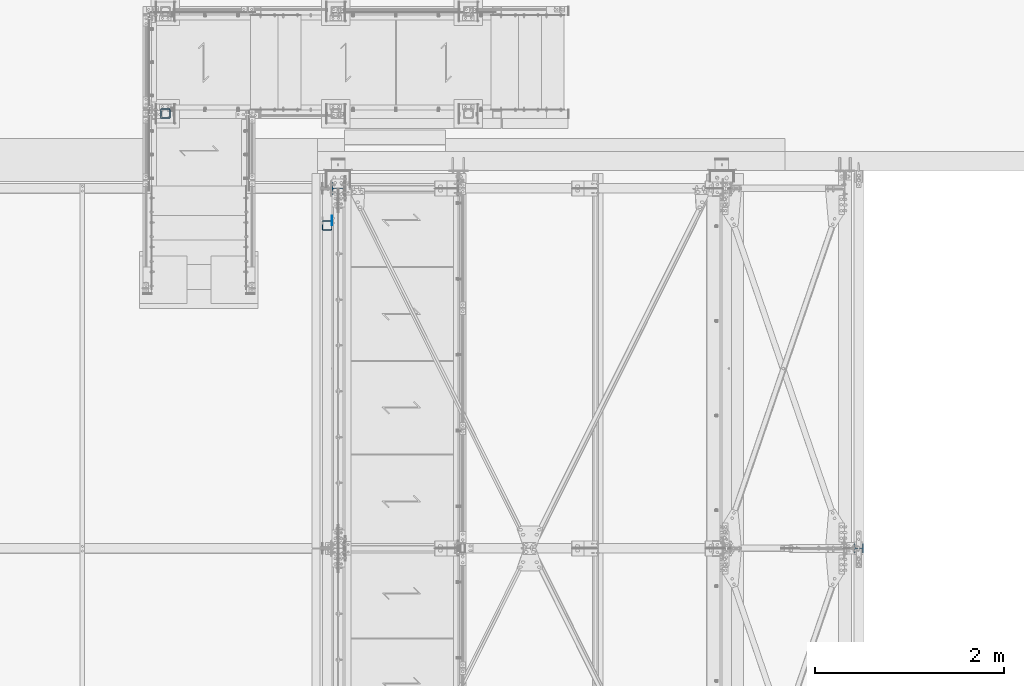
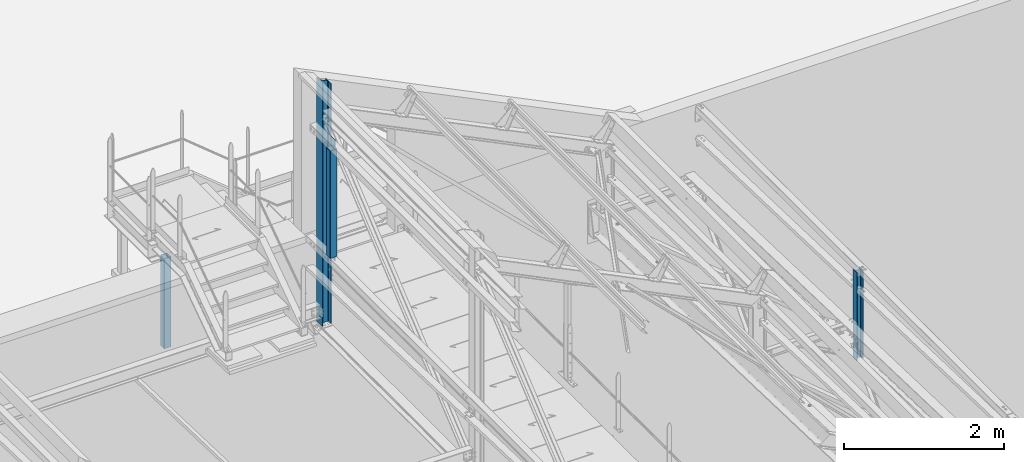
# One storey, part 18 of 362: 5 columns, 4 elements without a shape of their own.
"""IFC2X3 building model written with IfcOpenShell, lengths in millimetres."""

from ifc_helpers import new_model, si_unit, frame, origin_with_axes, origin_2d_with_axis, place, context, subcontext, project, spatial, rectangle, hollow_rectangle, i_section, extrude, clip, halfspace, material, type_object, element, aggregate, save


model = new_model("IFC2X3")

# Units and contexts
model_context = context("Model", 3, precision=1e-05, world=origin_with_axes())
body_context = subcontext(model_context, "Body", "Model", "MODEL_VIEW")
ifc_project = project(units=[si_unit("LENGTHUNIT", "METRE", prefix="MILLI"), si_unit("AREAUNIT", "SQUARE_METRE"), si_unit("VOLUMEUNIT", "CUBIC_METRE"), si_unit("MASSUNIT", "GRAM", prefix="KILO"), si_unit("TIMEUNIT", "SECOND"), si_unit("PLANEANGLEUNIT", "RADIAN"), si_unit("SOLIDANGLEUNIT", "STERADIAN"), si_unit("THERMODYNAMICTEMPERATUREUNIT", "DEGREE_CELSIUS"), si_unit("LUMINOUSINTENSITYUNIT", "LUMEN")], contexts=[model_context])

# Site, building, storey
site_placement = place(None, origin_with_axes())
site = spatial("IfcSite", under=ifc_project, at=site_placement, Name="Undefined", CompositionType="ELEMENT")
building_placement = place(site_placement, origin_with_axes())
building = spatial("IfcBuilding", under=site, at=building_placement, Name="Undefined", CompositionType="ELEMENT")
storey_placement = place(building_placement, origin_with_axes())
storey = spatial("IfcBuildingStorey", under=building, at=storey_placement, Name="Undefined", CompositionType="ELEMENT", Elevation=0.0)

# Assembly, column
assembly_1_placement = place(storey_placement, origin_with_axes())
assembly_1 = element("IfcElementAssembly", 1, at=assembly_1_placement, inside=storey, AssemblyPlace="NOTDEFINED", PredefinedType="NOTDEFINED")
ifc_material_1 = material(Name="Undefined/S235-E24")
column_type_1 = type_object("IfcColumnType", Name="TUBE-C-100*100*5", PredefinedType="NOTDEFINED")
column_1_placement = place(assembly_1_placement, frame((32455.0000000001, 15989.9999136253, 7062.0), z_axis=(0.0, 0.0, 1.0), x_axis=(0.0, 1.0, 0.0)))
column_1 = element("IfcColumn", 2, at=column_1_placement, type_object=column_type_1, material=ifc_material_1, Name="POTELET", ObjectType="TUBE-C-100*100*5", context=body_context, shape_type="SweptSolid", body=[
    extrude(hollow_rectangle(XDim=100.0, YDim=100.0, WallThickness=5.0, InnerFilletRadius=5.0, OuterFilletRadius=10.0, at=origin_2d_with_axis()), frame((0.0, 0.0, 1370.00011661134), z_axis=(0.0, 0.0, -1.0), x_axis=(0.0, 1.0, 0.0)), (0.0, 0.0, 1.0), 1370.0),
])
aggregate(assembly_1, [column_1])

assembly_2_placement = place(storey_placement, origin_with_axes())
assembly_2 = element("IfcElementAssembly", 3, at=assembly_2_placement, inside=storey, Name="MONTANT", AssemblyPlace="NOTDEFINED", PredefinedType="NOTDEFINED")
column_type_2 = type_object("IfcColumnType", Name="TUBE-C-100*100*4", PredefinedType="NOTDEFINED")
column_2_placement = place(assembly_2_placement, frame((34163.5000106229, 14810.0001581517, 8555.00000000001), z_axis=(0.0, 0.0, 1.0), x_axis=(0.0, 1.0, 0.0)))
column_2 = element("IfcColumn", 4, at=column_2_placement, type_object=column_type_2, material=ifc_material_1, Name="MONTANT", ObjectType="TUBE-C-100*100*4", context=body_context, shape_type="SweptSolid", body=[
    extrude(hollow_rectangle(XDim=100.0, YDim=100.0, WallThickness=4.0, InnerFilletRadius=4.0, OuterFilletRadius=8.0, at=origin_2d_with_axis()), frame((0.0, 0.0, 1635.0), z_axis=(0.0, 0.0, -1.0), x_axis=(0.0, 1.0, 0.0)), (0.0, 0.0, 1.0), 1635.0),
])

assembly_3_placement = place(storey_placement, origin_with_axes())
assembly_3 = element("IfcElementAssembly", 5, at=assembly_3_placement, inside=storey, Name="MONTANT", AssemblyPlace="NOTDEFINED", PredefinedType="NOTDEFINED")
ifc_material_2 = material(Name="Undefined/S275-E28")
column_type_3 = type_object("IfcColumnType", Name="HEA140", PredefinedType="NOTDEFINED")
column_3_placement = place(assembly_3_placement, frame((34280.0, 15200.0, 7260.0), z_axis=(0.0, 0.0, 1.0), x_axis=(-1.0, 0.0, 0.0)))
column_3 = element("IfcColumn", 6, at=column_3_placement, type_object=column_type_3, material=ifc_material_2, Name="MONTANT", ObjectType="HEA140", context=body_context, shape_type="Clipping", body=[
    clip(extrude(i_section(OverallWidth=140.0, OverallDepth=133.0, WebThickness=5.5, FlangeThickness=8.5, FilletRadius=12.0, at=origin_2d_with_axis()), frame((0.0, 0.0, 3730.84210522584), z_axis=(0.0, 0.0, -1.0), x_axis=(0.0, 1.0, 0.0)), (0.0, 0.0, 1.0), 3730.84), halfspace(frame((-66.5, 70.0, 3654.3071165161), z_axis=(-0.441220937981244, -6.28179308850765e-09, 0.89739850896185), x_axis=(0.89739850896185, 0.0, 0.441220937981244)), False)),
])
aggregate(assembly_3, [column_3])

assembly_4_placement = place(storey_placement, origin_with_axes())
assembly_4 = element("IfcElementAssembly", 7, at=assembly_4_placement, inside=storey, AssemblyPlace="NOTDEFINED", PredefinedType="NOTDEFINED")
column_type_4 = type_object("IfcColumnType", Name="HEA100", PredefinedType="NOTDEFINED")
column_4_placement = place(assembly_4_placement, frame((39777.0, 11399.9999999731, 7100.00252984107), z_axis=(0.0, 0.0, 1.0), x_axis=(1.0, 0.0, 0.0)))
column_4 = element("IfcColumn", 8, at=column_4_placement, type_object=column_type_4, material=ifc_material_2, Name="BAIONNETTE", ObjectType="HEA100", context=body_context, shape_type="SweptSolid", body=[
    extrude(i_section(OverallWidth=100.0, OverallDepth=96.0, WebThickness=5.0, FlangeThickness=8.0, FilletRadius=12.0, at=origin_2d_with_axis()), frame((0.0, 0.0, 1344.99747015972), z_axis=(0.0, 0.0, -1.0), x_axis=(0.0, 1.0, 0.0)), (0.0, 0.0, 1.0), 1345.0),
])
aggregate(assembly_4, [column_4])

# Column
column_type_5 = type_object("IfcColumnType", Name="PL100*5", PredefinedType="NOTDEFINED")
column_5_placement = place(assembly_2_placement, frame((34215.9998943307, 14860.0001581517, 8450.0), z_axis=(0.0, 0.0, 1.0), x_axis=(0.0, 1.0, 0.0)))
column_5 = element("IfcColumn", 9, at=column_5_placement, type_object=column_type_5, material=ifc_material_1, Name="FEUILLURE", ObjectType="PL100*5", context=body_context, shape_type="SweptSolid", body=[
    extrude(rectangle(XDim=5.0, YDim=100.0, at=origin_2d_with_axis()), frame((0.0, 0.0, 1845.0), z_axis=(0.0, 0.0, -1.0), x_axis=(0.0, 1.0, 0.0)), (0.0, 0.0, 1.0), 1845.0),
])

aggregate(assembly_2, [column_5, column_2])

save(model, "model.ifc")
